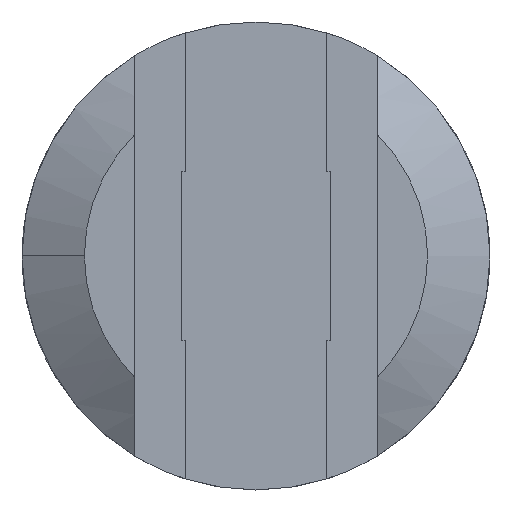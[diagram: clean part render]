
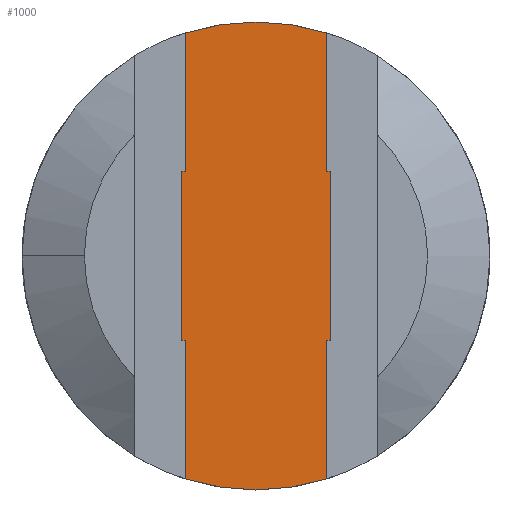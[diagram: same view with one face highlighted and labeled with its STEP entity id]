
A CAD part, top view. The second image highlights one B-rep face of the part: STEP entity #1000.
In plain terms, the highlighted planar face has unit normal (0, 0, 1).
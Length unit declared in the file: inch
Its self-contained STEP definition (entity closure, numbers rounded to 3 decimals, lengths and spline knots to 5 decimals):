
#86=CARTESIAN_POINT('',(0.,0.,0.357));
#87=DIRECTION('',(0.,0.,1.));
#88=DIRECTION('',(0.303,0.953,0.));
#89=AXIS2_PLACEMENT_3D('',#86,#87,#88);
#190=CARTESIAN_POINT('',(0.,0.,0.357));
#191=DIRECTION('',(0.,0.,1.));
#192=DIRECTION('',(-0.303,-0.953,0.));
#193=AXIS2_PLACEMENT_3D('',#190,#191,#192);
#269=DIRECTION('',(0.,1.,0.));
#270=VECTOR('',#269,0.38793);
#271=CARTESIAN_POINT('',(0.19875,0.2375,0.357));
#272=LINE('',#271,#270);
#273=DIRECTION('',(-1.,0.,0.));
#274=VECTOR('',#273,0.00925);
#275=CARTESIAN_POINT('',(0.208,0.2375,0.357));
#276=LINE('',#275,#274);
#277=DIRECTION('',(0.,1.,0.));
#278=VECTOR('',#277,0.475);
#279=CARTESIAN_POINT('',(0.208,-0.2375,0.357));
#280=LINE('',#279,#278);
#281=DIRECTION('',(1.,0.,0.));
#282=VECTOR('',#281,0.00925);
#283=CARTESIAN_POINT('',(0.19875,-0.2375,0.357));
#284=LINE('',#283,#282);
#285=DIRECTION('',(0.,1.,0.));
#286=VECTOR('',#285,0.38793);
#287=CARTESIAN_POINT('',(0.19875,-0.62543,0.357));
#288=LINE('',#287,#286);
#289=DIRECTION('',(0.,1.,0.));
#290=VECTOR('',#289,0.475);
#291=CARTESIAN_POINT('',(-0.208,-0.2375,0.357));
#292=LINE('',#291,#290);
#293=DIRECTION('',(0.,1.,0.));
#294=VECTOR('',#293,0.38793);
#295=CARTESIAN_POINT('',(-0.19875,0.2375,0.357));
#296=LINE('',#295,#294);
#331=DIRECTION('',(1.,0.,0.));
#332=VECTOR('',#331,0.00925);
#333=CARTESIAN_POINT('',(-0.208,0.2375,0.357));
#334=LINE('',#333,#332);
#343=DIRECTION('',(-1.,0.,0.));
#344=VECTOR('',#343,0.00925);
#345=CARTESIAN_POINT('',(-0.19875,-0.2375,0.357));
#346=LINE('',#345,#344);
#351=DIRECTION('',(0.,1.,0.));
#352=VECTOR('',#351,0.38793);
#353=CARTESIAN_POINT('',(-0.19875,-0.62543,0.357));
#354=LINE('',#353,#352);
#555=CARTESIAN_POINT('',(0.19875,0.62543,0.357));
#557=VERTEX_POINT('',#555);
#560=CARTESIAN_POINT('',(-0.19875,0.62543,0.357));
#562=VERTEX_POINT('',#560);
#597=CARTESIAN_POINT('',(-0.19875,-0.62543,0.357));
#599=VERTEX_POINT('',#597);
#602=CARTESIAN_POINT('',(0.19875,-0.62543,0.357));
#604=VERTEX_POINT('',#602);
#613=CARTESIAN_POINT('',(0.19875,0.2375,0.357));
#614=VERTEX_POINT('',#613);
#615=CARTESIAN_POINT('',(0.208,0.2375,0.357));
#616=VERTEX_POINT('',#615);
#617=CARTESIAN_POINT('',(0.208,-0.2375,0.357));
#618=VERTEX_POINT('',#617);
#619=CARTESIAN_POINT('',(0.19875,-0.2375,0.357));
#620=VERTEX_POINT('',#619);
#621=CARTESIAN_POINT('',(-0.19875,0.2375,0.357));
#622=VERTEX_POINT('',#621);
#631=CARTESIAN_POINT('',(-0.208,0.2375,0.357));
#632=VERTEX_POINT('',#631);
#633=CARTESIAN_POINT('',(-0.208,-0.2375,0.357));
#634=VERTEX_POINT('',#633);
#635=CARTESIAN_POINT('',(-0.19875,-0.2375,0.357));
#636=VERTEX_POINT('',#635);
#972=CARTESIAN_POINT('',(0.,0.,0.357));
#973=DIRECTION('',(0.,0.,1.));
#974=DIRECTION('',(1.,0.,0.));
#975=AXIS2_PLACEMENT_3D('',#972,#973,#974);
#976=PLANE('',#975);
#978=ORIENTED_EDGE('',*,*,#977,.T.);
#979=ORIENTED_EDGE('',*,*,#786,.F.);
#981=ORIENTED_EDGE('',*,*,#980,.F.);
#983=ORIENTED_EDGE('',*,*,#982,.F.);
#985=ORIENTED_EDGE('',*,*,#984,.F.);
#987=ORIENTED_EDGE('',*,*,#986,.F.);
#988=ORIENTED_EDGE('',*,*,#958,.F.);
#989=ORIENTED_EDGE('',*,*,#857,.F.);
#991=ORIENTED_EDGE('',*,*,#990,.T.);
#993=ORIENTED_EDGE('',*,*,#992,.T.);
#995=ORIENTED_EDGE('',*,*,#994,.T.);
#997=ORIENTED_EDGE('',*,*,#996,.T.);
#998=EDGE_LOOP('',(#978,#979,#981,#983,#985,#987,#988,#989,#991,#993,#995,
#997));
#999=FACE_OUTER_BOUND('',#998,.F.);
#90=CIRCLE('',#89,0.65625);
#194=CIRCLE('',#193,0.65625);
#786=EDGE_CURVE('',#557,#562,#90,.T.);
#857=EDGE_CURVE('',#599,#604,#194,.T.);
#958=EDGE_CURVE('',#604,#620,#288,.T.);
#977=EDGE_CURVE('',#622,#562,#296,.T.);
#980=EDGE_CURVE('',#614,#557,#272,.T.);
#982=EDGE_CURVE('',#616,#614,#276,.T.);
#984=EDGE_CURVE('',#618,#616,#280,.T.);
#986=EDGE_CURVE('',#620,#618,#284,.T.);
#990=EDGE_CURVE('',#599,#636,#354,.T.);
#992=EDGE_CURVE('',#636,#634,#346,.T.);
#994=EDGE_CURVE('',#634,#632,#292,.T.);
#996=EDGE_CURVE('',#632,#622,#334,.T.);
#1000=ADVANCED_FACE('',(#999),#976,.T.);
